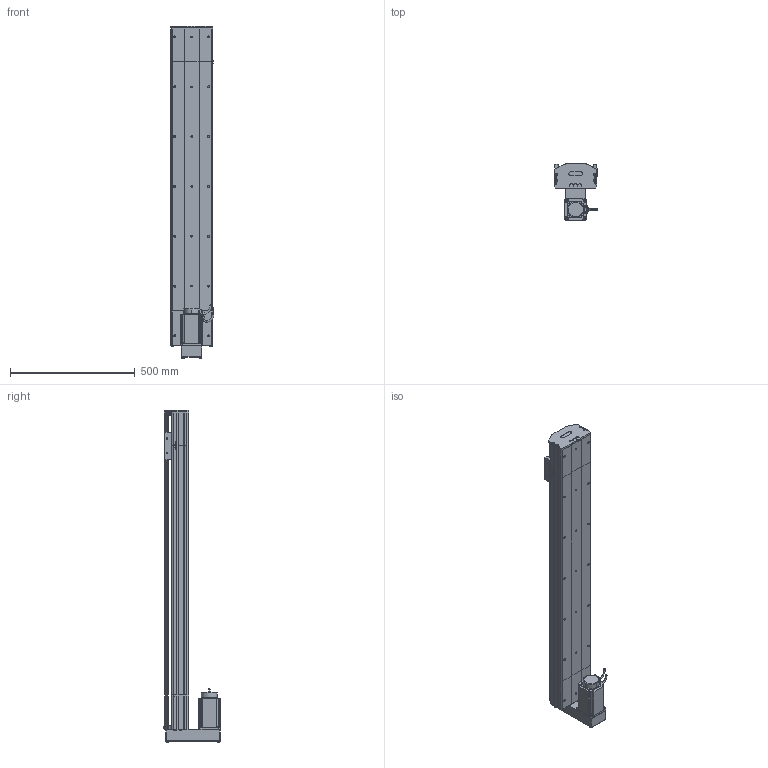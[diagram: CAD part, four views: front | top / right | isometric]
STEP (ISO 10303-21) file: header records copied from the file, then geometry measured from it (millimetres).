
FILE_DESCRIPTION (( 'STEP AP214' ), '1' );
FILE_NAME ('D17 TSN BM S1000.STEP', '2010-06-30T07:47:11', ( 'Christophe Gaillard' ), ( 'SGA' ), 'SwSTEP 2.0', 'SolidWorks 2010', '' );
FILE_SCHEMA (( 'AUTOMOTIVE_DESIGN' ));
Length unit declared in the file: millimetre
Products named in the file (33): plaque de  bout tail D17_Default; D17 TSN BM S1000; corp D17 1000_Default; arbre + rail D17 Course 1000 ; course 1000 D17_Default; corpl tail D17_Default; Tail D17_Default; couvercle D17 course L1000_Default; Moteur motionking 90BLDC125A-640; vis M5 L5_Default; Arbre+rail head D17; plaque de  bout BM head D17_Default; couvercle D17 head_Default; corpl head D17 BM_Default; head BM_Default; vis M5 L25_Default; vis M5 L8 90°_Default; couvercle D17_Default; Arbre+rail tail D17; tete d''axe haut D17; tete d''axe bas D17; guide D17; Chariot D17 TBN; chariot D17 TSN; Cvis M5 L70_Default; vis M5 L12_Default; Conecteur2_Default; codeur 90BLDC125-640; corps 90BLDC125A-640; renvoi Bm_Default; Vis M5 L16-2_Default; Conecteur_Default; avant 90BLDC125A-640
Assembly tree (51 placements, depth 4):
  D17 TSN BM S1000
    course 1000 D17_Default
      couvercle D17 course L1000_Default
      arbre + rail D17 Course 1000 
      corp D17 1000_Default
    head BM_Default
      vis M5 L5_Default  x2
      vis M5 L12_Default  x8
      renvoi Bm_Default
      Moteur motionking 90BLDC125A-640
        Conecteur2_Default
        avant 90BLDC125A-640
        Conecteur_Default
        corps 90BLDC125A-640
        codeur 90BLDC125-640
      Cvis M5 L70_Default  x2
      Arbre+rail head D17
      Vis M5 L16-2_Default  x4
      plaque de  bout BM head D17_Default
      corpl head D17 BM_Default
      couvercle D17 head_Default
    Tail D17_Default
      vis M5 L25_Default  x2
      vis M5 L8 90°_Default  x2
      couvercle D17_Default
      vis M5 L12_Default  x4
      Arbre+rail tail D17
      tete d''axe bas D17
      plaque de  bout tail D17_Default
      tete d''axe haut D17
      corpl tail D17_Default
    chariot D17 TSN
      guide D17  x2
      Chariot D17 TBN
Bounding box: 174.95 x 225.7 x 1332.7 mm (x, y, z)
Volume: 8609157 mm3; surface area: 2204814.9 mm2
Topology: 75 solids, 75 shells, 2141 faces, 5439 edges, 3516 vertices
Faces by surface type: plane 1322, cylinder 558, bspline 136, torus 65, cone 56, sphere 4
Entity records: 71832 total; most frequent: CARTESIAN_POINT 22680, ORIENTED_EDGE 8786, DIRECTION 8194, EDGE_CURVE 4393, VECTOR 3042, LINE 3042, VERTEX_POINT 2882, AXIS2_PLACEMENT_3D 2576
